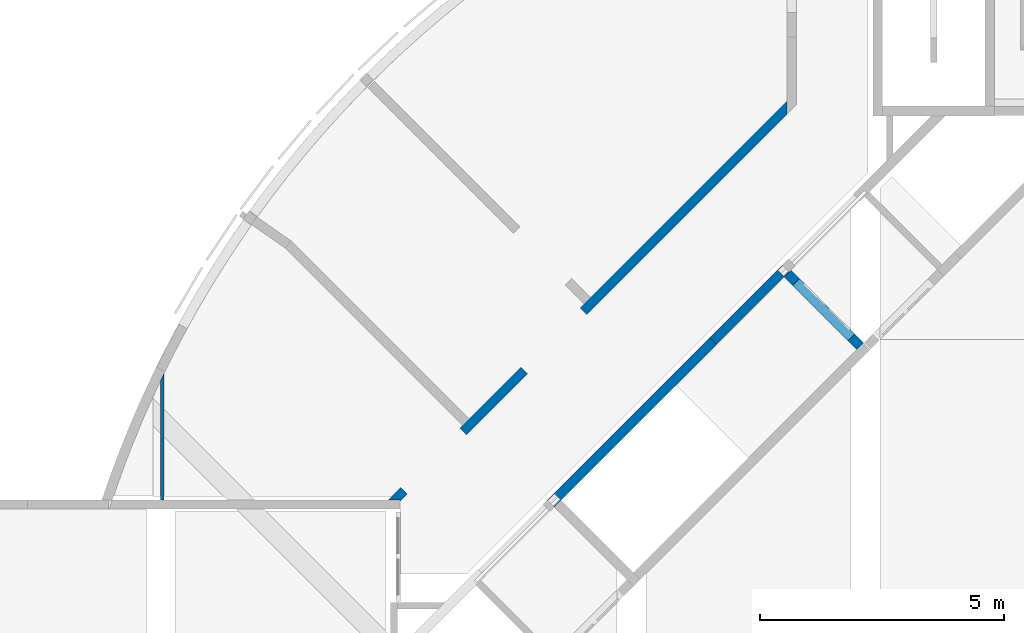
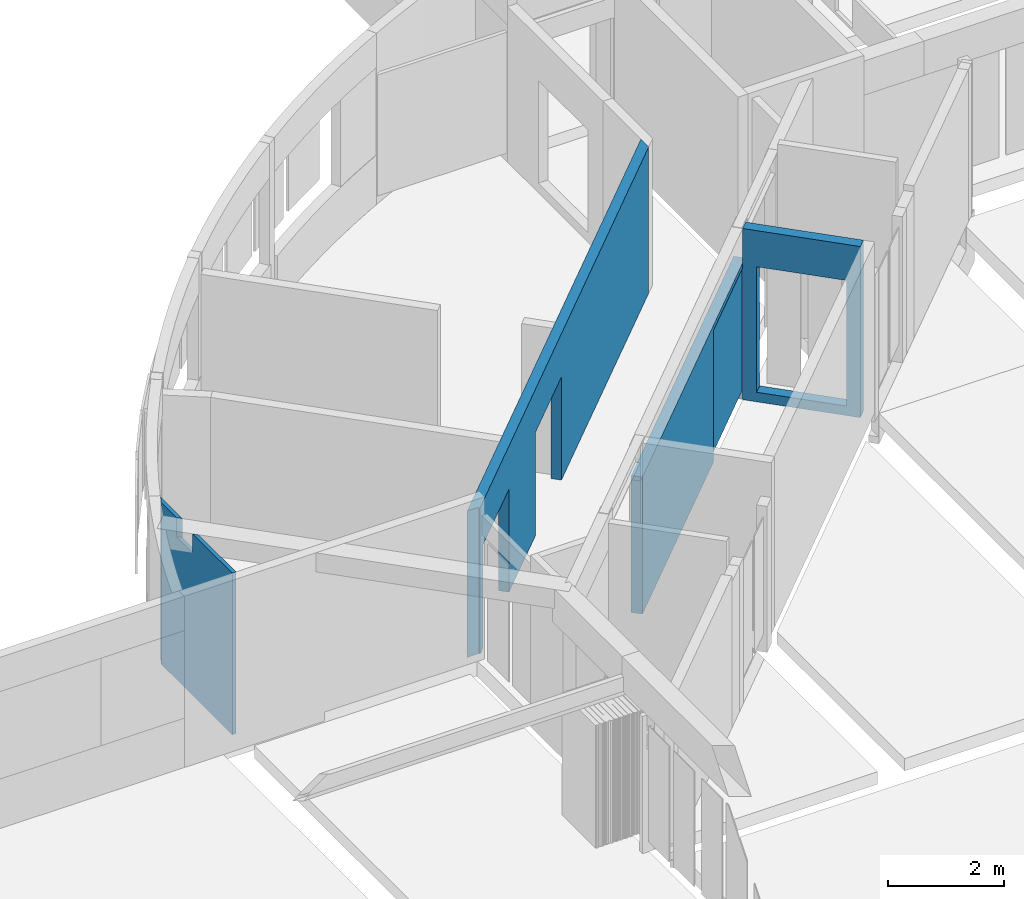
# One storey, part 29 of 30: 5 walls.
"""IFC4X3_ADD2 building model written with IfcOpenShell, lengths in millimetres."""

import ifcopenshell
import ifcopenshell.guid

model = None  # the IFC model being written
_history = None  # IfcOwnerHistory: only IFC2X3 demands one
_inside = {}  # id of a spatial element -> (the spatial element, [elements in it])
_under = {}  # id of a project, library or spatial element -> (it, [spatial elements below it])
_declared = {}  # id of a project -> (the project, [libraries it declares])
_typed = {}  # id of a type object -> (the type object, [elements of that type])
_made_of = {}  # id of a material, layer set ... -> (it, [elements and type objects made of it])


def new_model(schema):
    """Start an empty IFC model of exactly this schema.

    Asked for "IFC4X3", IfcOpenShell would pick the latest addendum, in which some entities
    have other attributes; the version numbers below select the first issue.
    IFC2X3 requires an IfcOwnerHistory on every rooted entity: one is made here for all.
    """
    global model, _history
    if schema == "IFC4X3":
        model = ifcopenshell.file(schema_version=(4, 3, 0, 0))
    else:
        model = ifcopenshell.file(schema=schema)
    _inside.clear()
    _under.clear()
    _declared.clear()
    _typed.clear()
    _made_of.clear()
    _history = None
    if model.schema == "IFC2X3":
        org = make("IfcOrganization", Name="unknown")
        user = make(
            "IfcPersonAndOrganization",
            ThePerson=make("IfcPerson", FamilyName="unknown"),
            TheOrganization=org,
        )
        app = make(
            "IfcApplication",
            ApplicationDeveloper=org,
            Version="unknown",
            ApplicationFullName="unknown",
            ApplicationIdentifier="unknown",
        )
        _history = make(
            "IfcOwnerHistory",
            OwningUser=user,
            OwningApplication=app,
            ChangeAction="ADDED",
            CreationDate=0,
        )
    return model


def make(cls, **values):
    """One entity of the class cls with the attributes given. An attribute that is None is left unset."""
    return model.create_entity(
        cls, **{name: value for name, value in values.items() if value is not None}
    )


def rooted(cls, **values):
    """An entity with a GlobalId (a new one), such as an element, a storey or a relation."""
    return make(cls, GlobalId=ifcopenshell.guid.new(), OwnerHistory=_history, **values)


def si_unit(unit_type, name, prefix=None):
    """IfcSIUnit, for example si_unit("LENGTHUNIT", "METRE", prefix="MILLI")."""
    return make("IfcSIUnit", UnitType=unit_type, Prefix=prefix, Name=name)


def assignment(units):
    """IfcUnitAssignment: the units of a project."""
    return None if units is None else make("IfcUnitAssignment", Units=units)


def point(xyz):
    """IfcCartesianPoint."""
    return None if xyz is None else make("IfcCartesianPoint", Coordinates=xyz)


def direction(xyz):
    """IfcDirection."""
    return None if xyz is None else make("IfcDirection", DirectionRatios=xyz)


def frame(location, z_axis=None, x_axis=None):
    """IfcAxis2Placement3D, a coordinate frame: its origin and axes. An axis left out is left unset."""
    return make(
        "IfcAxis2Placement3D",
        Location=point(location),
        Axis=direction(z_axis),
        RefDirection=direction(x_axis),
    )


def origin_with_axes():
    """The frame at (0, 0, 0) with the z axis (0, 0, 1) and the x axis (1, 0, 0) written out."""
    return frame((0.0, 0.0, 0.0), z_axis=(0.0, 0.0, 1.0), x_axis=(1.0, 0.0, 0.0))


def place(relative_to, where):
    """IfcLocalPlacement: puts the frame where relative to a parent placement (None: the world)."""
    return make(
        "IfcLocalPlacement", PlacementRelTo=relative_to, RelativePlacement=where
    )


def context(
    kind, dimensions, precision=None, world=None, true_north=None, identifier=None
):
    """IfcGeometricRepresentationContext, for example the 3D "Model" context."""
    return make(
        "IfcGeometricRepresentationContext",
        ContextIdentifier=identifier,
        ContextType=kind,
        CoordinateSpaceDimension=dimensions,
        Precision=precision,
        WorldCoordinateSystem=world,
        TrueNorth=true_north,
    )


def subcontext(parent, identifier, kind, view, scale=None):
    """IfcGeometricRepresentationSubContext, for example "Body" below "Model"."""
    return make(
        "IfcGeometricRepresentationSubContext",
        ContextIdentifier=identifier,
        ContextType=kind,
        ParentContext=parent,
        TargetScale=scale,
        TargetView=view,
    )


def project(units=None, contexts=None):
    """IfcProject with its units and contexts."""
    return rooted(
        "IfcProject",
        Name="project",
        RepresentationContexts=contexts,
        UnitsInContext=assignment(units),
    )


def spatial(cls, under=None, at=None, **own):
    """A site, building, storey or space (cls), placed at a placement, below another one or the project."""
    s = rooted(cls, ObjectPlacement=at, **own)
    if under is not None:
        _under.setdefault(under.id(), (under, []))[1].append(s)
    return s


def point_list(points):
    """IfcCartesianPointList2D or 3D."""
    cls = (
        "IfcCartesianPointList2D" if len(points[0]) == 2 else "IfcCartesianPointList3D"
    )
    return make(cls, CoordList=points)


def polygons(points, faces, closed=None, point_numbers=None):
    """IfcPolygonalFaceSet: a face is its outer loop, then its inner loops; points numbered from 1."""
    made = []
    for loops in faces:
        if len(loops) == 1:
            made.append(make("IfcIndexedPolygonalFace", CoordIndex=loops[0]))
        else:
            made.append(
                make(
                    "IfcIndexedPolygonalFaceWithVoids",
                    CoordIndex=loops[0],
                    InnerCoordIndices=loops[1:],
                )
            )
    return make(
        "IfcPolygonalFaceSet",
        Coordinates=point_list(points),
        Closed=closed,
        Faces=made,
        PnIndex=point_numbers,
    )


def shape(context_of_items, identifier, shape_type, items):
    """IfcShapeRepresentation: the items that make up one representation, for example the "Body"."""
    return make(
        "IfcShapeRepresentation",
        ContextOfItems=context_of_items,
        RepresentationIdentifier=identifier,
        RepresentationType=shape_type,
        Items=items,
    )


def source(mapping_origin, context_of_items, identifier, shape_type, items):
    """IfcRepresentationMap: a shape defined once, which mapped items show again and again."""
    return make(
        "IfcRepresentationMap",
        MappingOrigin=mapping_origin,
        MappedRepresentation=shape(context_of_items, identifier, shape_type, items),
    )


def transform(
    local_origin,
    x_axis=None,
    y_axis=None,
    z_axis=None,
    scale=None,
    scale2=None,
    scale3=None,
    uniform=True,
):
    """IfcCartesianTransformationOperator3D, or its non-uniform kind. x_axis, y_axis, z_axis: its Axis1, 2, 3."""
    if uniform:
        return make(
            "IfcCartesianTransformationOperator3D",
            Axis1=direction(x_axis),
            Axis2=direction(y_axis),
            LocalOrigin=point(local_origin),
            Scale=scale,
            Axis3=direction(z_axis),
        )
    return make(
        "IfcCartesianTransformationOperator3DnonUniform",
        Axis1=direction(x_axis),
        Axis2=direction(y_axis),
        LocalOrigin=point(local_origin),
        Scale=scale,
        Axis3=direction(z_axis),
        Scale2=scale2,
        Scale3=scale3,
    )


def mapped(mapping_source, mapping_target):
    """IfcMappedItem: shows the shape of a source again, moved by a transform."""
    return make(
        "IfcMappedItem", MappingSource=mapping_source, MappingTarget=mapping_target
    )


def made_of(thing, what):
    """Note that an element or type object is made of a material, layer set ...; save() writes the relation."""
    if what is not None:
        _made_of.setdefault(what.id(), (what, []))[1].append(thing)
    return thing


def type_object(cls, material=None, **own):
    """A type object (cls), such as IfcWallType, which elements share."""
    return made_of(rooted(cls, **own), material)


def type_shapes(of_type, sources):
    """Give a type object the sources (RepresentationMaps) that its elements show as mapped items."""
    of_type.RepresentationMaps = sources


def element(
    cls,
    number,
    at=None,
    inside=None,
    cuts=None,
    type_object=None,
    material=None,
    context=None,
    identifier="Body",
    shape_type=None,
    held_by="IfcProductDefinitionShape",
    body=None,
    shapes=None,
    **own,
):
    """One element of the class cls, such as IfcWall. Its Tag is "e" and its number.

    at: its placement. inside: the storey or other place that contains it. cuts: it is an
    opening in that element (IfcRelVoidsElement). A single representation is given by context,
    identifier, shape_type and body (its items); several are given by shapes. held_by: the class
    of the entity that holds the representations. save() writes the other relations.
    """
    e = rooted(cls, Tag="e%d" % number, ObjectPlacement=at, **own)
    if body is not None:
        shapes = [shape(context, identifier, shape_type, body)]
    if shapes is not None:
        e.Representation = make(held_by, Representations=shapes)
    if inside is not None:
        _inside.setdefault(inside.id(), (inside, []))[1].append(e)
    if cuts is not None:
        rooted(
            "IfcRelVoidsElement", RelatingBuildingElement=cuts, RelatedOpeningElement=e
        )
    if type_object is not None:
        _typed.setdefault(type_object.id(), (type_object, []))[1].append(e)
    return made_of(e, material)


def aggregate(whole, parts):
    """IfcRelAggregates: a whole, such as a stair, and the parts it consists of."""
    return rooted("IfcRelAggregates", RelatingObject=whole, RelatedObjects=parts)


def save(model, path):
    """Write the relations noted so far, then the file.

    IfcRelAggregates (storeys below a building ...), IfcRelContainedInSpatialStructure (elements
    in a storey), IfcRelDefinesByType, IfcRelAssociatesMaterial and IfcRelDeclares: one each for
    every whole, place, type object, material and project.
    """
    for whole, parts in _under.values():
        aggregate(whole, parts)
    for where, things in _inside.values():
        rooted(
            "IfcRelContainedInSpatialStructure",
            RelatedElements=things,
            RelatingStructure=where,
        )
    for kind, things in _typed.values():
        rooted("IfcRelDefinesByType", RelatedObjects=things, RelatingType=kind)
    for what, things in _made_of.values():
        rooted("IfcRelAssociatesMaterial", RelatedObjects=things, RelatingMaterial=what)
    for by, libraries in _declared.values():
        rooted("IfcRelDeclares", RelatingContext=by, RelatedDefinitions=libraries)
    model.write(path)


model = new_model("IFC4X3_ADD2")

# Units and contexts
model_context = context("Model", 3, precision=1e-05, world=origin_with_axes(), true_north=direction((0.0, 1.0)))
body_context = subcontext(model_context, "Body", "Model", "MODEL_VIEW")
ifc_project = project(units=[si_unit("LENGTHUNIT", "METRE", prefix="MILLI"), si_unit("AREAUNIT", "SQUARE_METRE"), si_unit("VOLUMEUNIT", "CUBIC_METRE"), si_unit("PLANEANGLEUNIT", "RADIAN"), si_unit("TIMEUNIT", "SECOND"), si_unit("MASSUNIT", "GRAM")], contexts=[model_context])

# Site, building, storey
site_placement = place(None, origin_with_axes())
site = spatial("IfcSite", under=ifc_project, at=site_placement, Name="Site", CompositionType="ELEMENT")
building_placement = place(site_placement, origin_with_axes())
building = spatial("IfcBuilding", under=site, at=building_placement, Name="IFC Building Story")
storey_placement = place(building_placement, origin_with_axes())
storey = spatial("IfcBuildingStorey", under=building, at=storey_placement, Name="000", Elevation=0.0)

# Walls
wall_type = type_object("IfcWallType", Name="Basic Wall_BB_10.01.62#01_Voorzetwand gipskarton_MS75 _ 50.25_ 75 mm9", PredefinedType="NOTDEFINED")
shared_shape = source(origin_with_axes(), body_context, "Body", "Tessellation", [
    polygons([(48.0119880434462, 37.5000000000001, 0.0), (2592.77120957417, 37.5000000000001, 0.0), (2592.77120957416, 25.000000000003, 0.0), (16.9922578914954, 25.000000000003, 0.0), (8.49524574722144, 29.1261377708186, 0.0), (0.0, 33.2559263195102, 0.0), (0.0, 37.5000000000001, 0.0), (2592.77120957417, 25.000000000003, 3400.0), (2592.77120957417, 37.5000000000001, 3400.0), (1292.78806068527, 25.000000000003, 3400.0), (1305.28806068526, 37.4999999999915, 3400.0), (739.60263573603, 37.5000000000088, 3000.0), (727.102635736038, 25.000000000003, 3000.0), (1292.78806068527, 25.000000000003, 3000.0), (1305.28806068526, 37.5000000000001, 3000.0), (16.9922578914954, 25.000000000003, 3400.0), (727.102635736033, 25.000000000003, 3400.0), (739.602635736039, 37.5000000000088, 3400.0), (0.0, 37.5000000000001, 3400.0), (1.29944055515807e-10, 33.2559263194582, 3400.0), (8.49524574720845, 29.1261377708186, 3400.0), (16.9922578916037, 24.999999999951, 637.5), (16.9922578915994, 24.9999999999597, 743.75), (8.69556215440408, 29.0288124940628, 664.001280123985), (8.22209635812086, 29.2588535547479, 2775.0064787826), (8.48147651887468, 29.1328277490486, 2894.43658762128), (1.51601398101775e-10, 33.2559263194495, 2807.90087463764), (8.64837174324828, 29.0517400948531, 1525.01943635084), (8.54279274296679, 29.1030364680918, 1404.91460805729), (16.9922578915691, 24.9999999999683, 1487.5), (16.9922578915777, 24.9999999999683, 1275.0), (16.9922578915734, 24.9999999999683, 1381.25), (8.81709455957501, 28.9697662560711, 1334.04730973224), (1.34275524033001e-10, 33.2559263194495, 3319.07758341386), (9.66424586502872, 28.5582053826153, 3339.30818575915), (8.19453016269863, 29.2722474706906, 193.485135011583), (16.9922578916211, 24.9999999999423, 146.711208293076), (16.9922578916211, 24.999999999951, 212.5), (16.9922578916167, 24.999999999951, 265.625), (16.9922578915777, 24.9999999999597, 1168.75), (7.92700282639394, 29.4022366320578, 1254.2974570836), (8.07939997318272, 29.3281876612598, 1163.17139363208), (8.14731954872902, 29.2951863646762, 1092.45262391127), (8.49524276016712, 29.1261392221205, 121.383624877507), (16.9922578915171, 24.9999999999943, 2914.46550048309), (8.16357194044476, 29.2872895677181, 2964.62757118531), (16.9922578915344, 24.9999999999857, 2423.67670877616), (16.9922578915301, 24.9999999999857, 2489.46550048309), (7.05443483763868, 29.8262407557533, 2442.7733271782), (16.9922578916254, 24.9999999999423, 80.9224165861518), (16.9922578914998, 24.9999999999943, 3238.1551668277), (16.9922578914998, 25.000000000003, 3319.07758341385), (8.49524276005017, 29.1261392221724, 3278.61637511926), (8.49524276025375, 29.1261392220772, 3202.56328001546), (16.9922578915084, 24.9999999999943, 3157.23275024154), (16.9922578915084, 24.9999999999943, 3076.31033365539), (8.48825734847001, 29.1295331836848, 3040.89334968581), (16.9922578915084, 24.9999999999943, 2995.38791706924), (16.9922578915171, 24.9999999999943, 2833.54308389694), (1.73258740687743e-10, 33.2559263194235, 2084.22416586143), (8.87224062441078, 28.9429739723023, 2051.32977000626), (8.09864864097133, 29.3188349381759, 2129.61048650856), (8.87224062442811, 28.9429739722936, 1788.17460317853), (8.09864864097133, 29.3188349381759, 1866.45531968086), (1.86253146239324e-10, 33.2559263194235, 1821.06899903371), (8.11824838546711, 29.3093116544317, 2653.93747975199), (1.60264335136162e-10, 33.2559263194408, 2610.53449951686), (8.89184074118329, 28.9334514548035, 2575.65676324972), (9.07570323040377, 28.8441249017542, 593.290160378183), (1.94916083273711e-10, 33.2559263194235, 1689.49141561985), (1.94916083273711e-10, 33.2559263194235, 1623.70262391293), (8.74497475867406, 29.0048053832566, 1669.47510578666), (1.90584614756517e-10, 33.2559263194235, 1755.28020732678), (9.07555531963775, 28.8441967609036, 3116.77154194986), (1.38606992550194e-10, 33.2559263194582, 3136.84483317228), (2.07910488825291e-10, 33.2559263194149, 1213.83624879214), (2.16573425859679e-10, 33.2559263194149, 1132.913832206), (2.25236362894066e-10, 33.2559263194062, 890.146582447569), (2.25236362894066e-10, 33.2559263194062, 809.224165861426), (8.10471425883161, 29.3158877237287, 839.796564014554), (1.55932866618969e-10, 33.2559263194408, 2676.32329122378), (1.77590209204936e-10, 33.2559263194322, 2150.01295756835), (1.8192167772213e-10, 33.2559263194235, 1952.64658244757), (1.86253146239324e-10, 33.2559263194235, 1886.85779074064), (1.73258740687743e-10, 33.2559263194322, 2281.59054098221), (1.73258740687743e-10, 33.2559263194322, 2215.80174927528), (8.11824838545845, 29.3093116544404, 2259.20472951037), (8.22209635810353, 29.2588535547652, 2380.27372854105), (1.68927272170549e-10, 33.2559263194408, 2413.16812439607), (8.27293730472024, 29.2341509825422, 1980.39629083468), (16.9922578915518, 24.999999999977, 1897.36637512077), (16.9922578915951, 24.9999999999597, 850.0), (8.01965594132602, 29.357216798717, 768.762957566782), (16.9922578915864, 24.9999999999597, 1062.5), (16.9922578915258, 24.9999999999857, 2621.04308389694), (16.9922578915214, 24.9999999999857, 2686.83187560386), (16.9922578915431, 24.9999999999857, 2226.31033365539), (16.9922578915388, 24.9999999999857, 2292.09912536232), (6.92455050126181, 29.8893590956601, 2714.53884455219), (1.51601398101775e-10, 33.2559263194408, 2742.11208293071), (6.92455050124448, 29.8893590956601, 2319.80609431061), (1.68927272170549e-10, 33.2559263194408, 2347.37933268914), (1.34275524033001e-10, 33.2559263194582, 3238.15516682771), (2.51225173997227e-10, 33.2559263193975, 80.9224165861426), (2.51225173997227e-10, 33.2559263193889, 161.844833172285), (1.42938461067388e-10, 33.2559263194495, 3071.05604146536), (1.42938461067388e-10, 33.2559263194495, 3005.26724975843), (1.47269929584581e-10, 33.2559263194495, 2939.4784580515), (1.47269929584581e-10, 33.2559263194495, 2873.68966634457), (2.07910488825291e-10, 33.2559263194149, 1294.75866537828), (1.8192167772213e-10, 33.2559263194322, 2018.4353741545), (1.55932866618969e-10, 33.2559263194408, 2544.74570780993), (9.00985233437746, 28.8761172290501, 914.920048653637), (16.9922578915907, 24.9999999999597, 956.25), (16.9922578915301, 24.9999999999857, 2555.25429219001), (8.28788752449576, 29.2268870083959, 2505.19378589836), (16.9922578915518, 24.999999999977, 1963.1551668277), (16.9922578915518, 24.999999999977, 2028.94395853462), (16.9922578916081, 24.999999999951, 531.25), (16.9922578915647, 24.9999999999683, 1593.75), (16.9922578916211, 24.9999999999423, 318.75), (9.4101481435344, 28.6816457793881, 371.875000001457), (8.36038004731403, 29.1916647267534, 292.187500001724), (8.12487304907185, 29.3060928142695, 517.007361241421), (7.93642520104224, 29.3976583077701, 445.450742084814), (7.32627348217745, 29.6941419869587, 60.691810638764), (7.75218911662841, 29.4871794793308, 1597.88094727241), (1.99247551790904e-10, 33.2559263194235, 1557.913832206), (2.4256223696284e-10, 33.2559263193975, 404.612082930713), (2.4256223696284e-10, 33.2559263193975, 323.689666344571), (2.46893705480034e-10, 33.2559263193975, 242.767249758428), (16.9922578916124, 24.999999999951, 425.0), (1.64595803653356e-10, 33.2559263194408, 2478.956916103), (2.38230768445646e-10, 33.2559263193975, 485.534499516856), (2.33899299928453e-10, 33.2559263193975, 566.456916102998), (2.33899299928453e-10, 33.2559263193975, 647.379332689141), (2.29567831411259e-10, 33.2559263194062, 728.301749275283), (2.20904894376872e-10, 33.2559263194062, 971.068999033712), (8.809810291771, 28.9733052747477, 986.232032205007), (2.16573425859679e-10, 33.2559263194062, 1051.99141561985), (2.07910488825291e-10, 33.2559263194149, 1360.54745708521), (1.99247551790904e-10, 33.2559263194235, 1492.12504049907), (2.03579020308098e-10, 33.2559263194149, 1426.33624879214), (16.9922578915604, 24.9999999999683, 1700.0), (16.9922578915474, 24.999999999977, 2094.73275024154), (16.9922578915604, 24.999999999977, 1831.57758341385), (16.9922578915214, 24.9999999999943, 2752.62066731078), (16.9922578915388, 24.9999999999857, 2357.88791706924), (16.9922578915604, 24.9999999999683, 1765.78879170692), (9.68972763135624, 28.5458265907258, 2194.39264190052), (16.9922578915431, 24.9999999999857, 2160.52154194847), (0.0, 37.5000000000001, 880.0)], [[[1, 2, 3]], [[1, 3, 4]], [[5, 6, 7]], [[7, 1, 4]], [[7, 4, 5]], [[8, 3, 2, 9]], [[10, 8, 9, 11]], [[12, 13, 14, 15]], [[21, 16, 17]], [[21, 17, 18]], [[21, 18, 19]], [[19, 20, 21]], [[10, 11, 15, 14]], [[13, 12, 18, 17]], [[22, 23, 24]], [[25, 26, 27]], [[28, 29, 30]], [[31, 32, 33]], [[20, 34, 35]], [[36, 37, 38, 39]], [[40, 41, 42, 43]], [[36, 44, 37]], [[45, 46, 26]], [[47, 48, 49]], [[44, 50, 37]], [[51, 52, 53]], [[51, 53, 54]], [[54, 55, 51]], [[56, 57, 58]], [[59, 45, 26]], [[60, 61, 62]], [[63, 64, 65]], [[66, 67, 68]], [[22, 24, 69]], [[70, 71, 72, 73]], [[74, 54, 75]], [[42, 76, 77, 43]], [[78, 79, 80]], [[81, 67, 66]], [[82, 60, 62]], [[64, 83, 84, 65]], [[85, 86, 87]], [[88, 49, 89]], [[90, 64, 91]], [[92, 80, 93]], [[40, 43, 94]], [[66, 95, 96]], [[87, 97, 98]], [[99, 25, 100]], [[101, 88, 102]], [[80, 79, 93]], [[63, 73, 72]], [[103, 75, 54]], [[54, 53, 34]], [[54, 34, 103]], [[104, 44, 105]], [[106, 107, 57]], [[26, 108, 109, 27]], [[110, 41, 33]], [[60, 111, 61]], [[68, 67, 112]], [[65, 73, 63]], [[74, 57, 56]], [[113, 92, 114]], [[48, 115, 116]], [[117, 118, 90, 91]], [[69, 119, 22]], [[55, 74, 56]], [[30, 120, 28]], [[121, 122, 123]], [[54, 74, 55]], [[124, 125, 119]], [[126, 50, 44]], [[36, 105, 44]], [[35, 16, 21]], [[4, 50, 126]], [[52, 35, 53]], [[53, 35, 34]], [[6, 5, 126]], [[126, 44, 104]], [[121, 123, 39]], [[28, 127, 128]], [[129, 122, 125]], [[130, 131, 123]], [[122, 121, 132]], [[131, 105, 36]], [[39, 123, 36]], [[36, 123, 131]], [[112, 133, 116]], [[90, 111, 83]], [[125, 122, 132]], [[123, 122, 130]], [[130, 122, 129]], [[119, 69, 124]], [[129, 125, 134]], [[76, 41, 110]], [[125, 132, 119]], [[41, 40, 31]], [[134, 125, 124]], [[69, 135, 124]], [[69, 136, 135]], [[106, 74, 75]], [[135, 134, 124]], [[93, 24, 23]], [[69, 24, 136]], [[24, 93, 137]], [[137, 93, 79]], [[42, 41, 76]], [[137, 136, 24]], [[92, 93, 23]], [[92, 113, 80]], [[113, 78, 80]], [[113, 138, 78]], [[138, 113, 139]], [[113, 114, 139]], [[114, 94, 139]], [[43, 139, 94]], [[43, 77, 140]], [[46, 107, 108]], [[140, 138, 139]], [[141, 110, 33]], [[139, 43, 140]], [[58, 57, 46]], [[74, 106, 57]], [[46, 57, 107]], [[45, 58, 46]], [[29, 141, 33]], [[31, 33, 41]], [[108, 26, 46]], [[33, 32, 29]], [[32, 30, 29]], [[142, 29, 28, 128]], [[143, 141, 29, 142]], [[127, 28, 120]], [[72, 120, 144]], [[72, 71, 127]], [[71, 128, 127]], [[25, 27, 100]], [[88, 89, 102]], [[64, 90, 83]], [[68, 95, 66]], [[61, 145, 62]], [[63, 146, 64]], [[25, 59, 26]], [[147, 25, 99]], [[88, 101, 148]], [[59, 25, 147]], [[47, 88, 148]], [[96, 147, 99]], [[98, 148, 101]], [[99, 81, 66]], [[101, 85, 87]], [[116, 115, 68]], [[81, 99, 100]], [[85, 101, 102]], [[96, 99, 66]], [[98, 101, 87]], [[115, 95, 68]], [[118, 145, 61]], [[63, 144, 149, 146]], [[150, 97, 87]], [[90, 118, 61]], [[151, 97, 150]], [[16, 35, 52]], [[150, 82, 62]], [[62, 145, 151]], [[64, 146, 91]], [[35, 21, 20]], [[6, 126, 104]], [[126, 5, 4]], [[120, 72, 127]], [[63, 72, 144]], [[112, 116, 68]], [[48, 116, 49]], [[49, 133, 89]], [[82, 150, 86]], [[47, 49, 88]], [[133, 49, 116]], [[86, 150, 87]], [[151, 150, 62]], [[111, 90, 61]], [[45, 59, 147]], [[147, 96, 95]], [[95, 115, 13]], [[45, 147, 95]], [[45, 95, 13]], [[13, 58, 45]], [[13, 56, 58]], [[13, 55, 56]], [[13, 17, 51]], [[13, 51, 55]], [[17, 52, 51]], [[17, 16, 52]], [[50, 4, 3]], [[3, 37, 50]], [[3, 38, 37]], [[3, 39, 38]], [[3, 121, 39]], [[3, 132, 121]], [[3, 119, 132]], [[3, 22, 119]], [[3, 23, 22]], [[3, 92, 23]], [[3, 114, 92]], [[3, 94, 114]], [[3, 40, 94]], [[3, 31, 40]], [[3, 32, 31]], [[3, 30, 32]], [[3, 120, 30]], [[3, 144, 120]], [[3, 8, 149]], [[3, 149, 144]], [[8, 146, 149]], [[8, 91, 146]], [[8, 117, 91]], [[8, 118, 117]], [[8, 145, 118]], [[8, 151, 145]], [[8, 97, 151]], [[8, 98, 97]], [[8, 148, 98]], [[8, 47, 148]], [[8, 48, 47]], [[14, 13, 115]], [[14, 115, 48]], [[48, 8, 14]], [[8, 10, 14]], [[152, 19, 1]], [[1, 7, 152]], [[15, 11, 9]], [[15, 9, 2]], [[15, 2, 1]], [[1, 12, 15]], [[1, 19, 12]], [[19, 18, 12]], [[79, 78, 152]], [[152, 137, 79]], [[152, 136, 137]], [[152, 135, 136]], [[152, 134, 135]], [[152, 129, 134]], [[152, 130, 129]], [[152, 131, 130]], [[152, 105, 131]], [[152, 104, 105]], [[152, 7, 104]], [[7, 6, 104]], [[34, 20, 19]], [[19, 103, 34]], [[19, 75, 103]], [[19, 106, 75]], [[19, 107, 106]], [[19, 108, 107]], [[19, 109, 108]], [[19, 27, 109]], [[19, 100, 27]], [[19, 81, 100]], [[19, 67, 81]], [[19, 112, 67]], [[19, 133, 112]], [[19, 89, 133]], [[19, 102, 89]], [[19, 85, 102]], [[19, 86, 85]], [[19, 82, 86]], [[19, 60, 82]], [[19, 111, 60]], [[19, 83, 111]], [[19, 84, 83]], [[19, 65, 84]], [[19, 73, 65]], [[19, 70, 73]], [[19, 71, 70]], [[19, 128, 71]], [[19, 142, 128]], [[19, 143, 142]], [[19, 141, 143]], [[19, 110, 141]], [[19, 76, 110]], [[19, 77, 76]], [[19, 140, 77]], [[19, 138, 140]], [[19, 152, 138]], [[152, 78, 138]]]),
    polygons([(16.9922578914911, 25.000000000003, 3400.0), (727.102635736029, 25.000000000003, 3400.0), (727.102635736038, 25.000000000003, 3000.0), (1292.78806068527, 25.000000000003, 3000.0), (1292.78806068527, 25.000000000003, 3400.0), (2592.77120957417, 25.000000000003, 3400.0), (2592.77120957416, 25.000000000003, 0.0), (16.9922578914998, 25.000000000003, 0.0), (16.9922578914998, 25.000000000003, 161.844833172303), (16.9922578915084, 24.9999999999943, 323.689666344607), (16.9922578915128, 24.9999999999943, 485.534499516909), (16.9922578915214, 24.9999999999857, 647.379332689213), (16.9922578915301, 24.9999999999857, 809.224165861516), (16.9922578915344, 24.9999999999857, 971.06899903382), (16.9922578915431, 24.9999999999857, 1132.91383220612), (16.9922578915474, 24.9999999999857, 1294.75866537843), (16.9922578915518, 24.999999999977, 1426.33624879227), (16.9922578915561, 24.9999999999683, 1557.91383220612), (16.9922578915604, 24.9999999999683, 1689.49141561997), (16.9922578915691, 24.9999999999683, 1821.06899903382), (16.9922578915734, 24.9999999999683, 1952.64658244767), (16.9922578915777, 24.9999999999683, 2084.22416586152), (16.9922578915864, 24.9999999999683, 2215.80174927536), (16.9922578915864, 24.9999999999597, 2347.37933268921), (16.9922578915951, 24.9999999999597, 2478.95691610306), (16.9922578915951, 24.999999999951, 2610.53449951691), (16.9922578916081, 24.999999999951, 2742.11208293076), (16.9922578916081, 24.999999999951, 2873.68966634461), (16.9922578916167, 24.999999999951, 3005.26724975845), (16.9922578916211, 24.999999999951, 3136.8448331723), (16.9922578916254, 24.9999999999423, 3238.1551668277), (2592.77120957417, 12.4999999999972, 0.0), (42.7905255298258, 12.4999999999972, 0.0), (29.8893603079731, 18.7457957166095, 0.0), (2592.77120957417, 12.4999999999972, 3400.0), (1280.28806068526, 12.4999999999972, 3400.0), (714.602635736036, 12.4999999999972, 3000.0), (1280.28806068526, 12.4999999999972, 3000.0), (42.7905255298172, 12.4999999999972, 3400.0), (714.602635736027, 12.4999999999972, 3400.0), (29.8893603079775, 18.7457957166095, 3400.0), (29.3331339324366, 19.0153129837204, 903.125000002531), (30.8059470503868, 18.3017093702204, 793.359502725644), (42.7905255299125, 12.4999999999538, 850.0), (29.4949218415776, 18.9369173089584, 2676.32329122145), (30.8930350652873, 18.2595179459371, 2854.38058224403), (42.7905255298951, 12.4999999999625, 1381.25), (30.419180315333, 18.489091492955, 1328.12500000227), (42.7905255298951, 12.4999999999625, 1275.0), (31.2555762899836, 18.0838831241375, 3293.74999814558), (29.8893556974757, 18.7457979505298, 3187.49999999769), (42.7905255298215, 12.4999999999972, 3238.15516682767), (31.1602178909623, 18.1300791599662, 146.711208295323), (42.7905255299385, 12.4999999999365, 80.9224165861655), (42.7905255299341, 12.4999999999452, 212.5), (42.7905255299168, 12.4999999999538, 743.75), (31.1896904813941, 18.1158012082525, 688.479111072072), (42.7905255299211, 12.4999999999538, 637.5), (42.7905255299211, 12.4999999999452, 531.25), (31.1970987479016, 18.1122122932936, 480.386435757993), (42.7905255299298, 12.4999999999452, 425.0), (29.8942566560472, 18.7434232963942, 1203.90128724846), (29.6424271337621, 18.8654438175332, 2258.95256025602), (30.2837933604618, 18.5546864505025, 2423.67670877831), (28.7832871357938, 19.2817580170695, 3077.10923055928), (42.7905255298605, 12.4999999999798, 2226.31033365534), (29.494921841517, 18.9369173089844, 2150.01295756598), (42.7905255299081, 12.4999999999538, 956.25), (31.6685780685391, 17.8838124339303, 999.232486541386), (28.5541624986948, 19.3927929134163, 1492.12504049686), (30.2012768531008, 18.5946662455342, 1646.87500000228), (30.1362857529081, 18.6261551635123, 1788.42677243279), (42.7905255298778, 12.4999999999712, 1831.57758341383), (30.2837933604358, 18.5546864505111, 1897.36637512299), (42.7905255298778, 12.4999999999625, 1700.0), (42.7905255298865, 12.4999999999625, 1593.75), (42.7905255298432, 12.4999999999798, 2752.62066731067), (42.7905255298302, 12.4999999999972, 3076.31033365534), (42.7905255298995, 12.4999999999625, 1168.75), (42.7905255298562, 12.4999999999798, 2357.88791706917), (30.2269948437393, 18.5822056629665, 2965.86328711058), (29.5267636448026, 18.9214882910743, 2013.54853152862), (30.2519509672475, 18.5701142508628, 2560.14113481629), (42.7905255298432, 12.4999999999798, 2621.04308389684), (42.7905255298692, 12.4999999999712, 1963.15516682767), (29.5336697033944, 18.918141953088, 584.37500000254), (29.4900749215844, 18.9392659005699, 262.303387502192), (42.7905255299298, 12.4999999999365, 318.75), (29.7744012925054, 18.8014970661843, 376.174800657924), (42.7905255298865, 12.4999999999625, 1487.5), (42.7905255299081, 12.4999999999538, 1062.5), (29.8145563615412, 18.7820405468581, 1095.99370433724), (42.7905255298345, 12.4999999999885, 2914.46550048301), (42.7905255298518, 12.4999999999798, 2489.46550048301), (42.7905255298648, 12.4999999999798, 2094.7327502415)], [[[4, 5, 6]], [[4, 6, 25]], [[25, 26, 3]], [[25, 3, 4]], [[6, 24, 25]], [[6, 23, 24]], [[6, 22, 23]], [[6, 21, 22]], [[6, 20, 21]], [[6, 7, 19]], [[6, 19, 20]], [[7, 18, 19]], [[7, 17, 18]], [[7, 16, 17]], [[7, 15, 16]], [[7, 14, 15]], [[7, 13, 14]], [[7, 12, 13]], [[7, 11, 12]], [[7, 10, 11]], [[7, 9, 10]], [[7, 8, 9]], [[31, 1, 2]], [[2, 3, 30]], [[2, 30, 31]], [[3, 29, 30]], [[3, 28, 29]], [[3, 27, 28]], [[3, 26, 27]], [[34, 8, 7]], [[7, 32, 33]], [[7, 33, 34]], [[35, 32, 7, 6]], [[36, 35, 6, 5]], [[3, 37, 38, 4]], [[41, 39, 40]], [[41, 40, 2]], [[2, 1, 41]], [[38, 36, 5, 4]], [[37, 3, 2, 40]], [[42, 43, 44]], [[27, 45, 46]], [[47, 48, 49]], [[48, 17, 16]], [[50, 51, 52]], [[53, 54, 55]], [[56, 57, 58]], [[59, 60, 61]], [[15, 62, 16]], [[8, 34, 53]], [[63, 64, 24]], [[65, 51, 30]], [[66, 63, 67]], [[68, 69, 42]], [[70, 71, 18]], [[72, 73, 74]], [[75, 71, 76]], [[30, 51, 31]], [[62, 48, 16]], [[72, 74, 20]], [[46, 45, 77]], [[70, 18, 17]], [[34, 33, 54]], [[78, 52, 51]], [[79, 49, 62]], [[80, 64, 63]], [[63, 23, 67]], [[46, 81, 28]], [[21, 74, 82]], [[83, 45, 26]], [[84, 45, 83]], [[82, 74, 85]], [[86, 59, 58]], [[51, 65, 78]], [[9, 53, 87]], [[87, 88, 89]], [[1, 31, 50]], [[39, 41, 50]], [[72, 19, 18, 71]], [[51, 50, 31]], [[54, 53, 34]], [[47, 90, 76, 70]], [[47, 70, 48]], [[91, 69, 68]], [[68, 42, 44]], [[48, 62, 49]], [[92, 62, 15, 14]], [[92, 79, 62]], [[30, 29, 65]], [[46, 93, 81]], [[81, 78, 65]], [[81, 65, 29]], [[28, 81, 29]], [[85, 74, 73]], [[94, 64, 80]], [[26, 45, 27]], [[22, 67, 23]], [[9, 87, 10]], [[78, 81, 93]], [[27, 46, 28]], [[77, 93, 46]], [[39, 50, 52]], [[50, 41, 1]], [[95, 66, 67]], [[67, 82, 85]], [[67, 85, 95]], [[77, 45, 84]], [[88, 87, 55]], [[25, 24, 64]], [[64, 83, 26]], [[64, 26, 25]], [[20, 74, 21]], [[22, 21, 82, 67]], [[12, 11, 86]], [[76, 71, 70]], [[75, 73, 72]], [[72, 20, 19]], [[72, 71, 75]], [[94, 84, 83, 64]], [[80, 63, 66]], [[24, 23, 63]], [[42, 69, 14]], [[14, 13, 42]], [[92, 69, 91]], [[86, 57, 12]], [[43, 42, 13]], [[57, 13, 12]], [[57, 56, 43]], [[48, 70, 17]], [[56, 44, 43]], [[87, 53, 55]], [[53, 9, 8]], [[86, 58, 57]], [[10, 87, 89]], [[11, 10, 89]], [[59, 86, 60]], [[60, 11, 89]], [[88, 61, 89]], [[57, 43, 13]], [[11, 60, 86]], [[61, 60, 89]], [[79, 92, 91]], [[14, 69, 92]], [[77, 84, 37]], [[37, 93, 77]], [[37, 78, 93]], [[37, 40, 52]], [[37, 52, 78]], [[40, 39, 52]], [[54, 33, 32]], [[32, 55, 54]], [[32, 88, 55]], [[32, 61, 88]], [[32, 59, 61]], [[32, 58, 59]], [[32, 56, 58]], [[32, 44, 56]], [[32, 68, 44]], [[32, 91, 68]], [[32, 79, 91]], [[32, 49, 79]], [[32, 47, 49]], [[32, 90, 47]], [[32, 76, 90]], [[32, 35, 75]], [[32, 75, 76]], [[35, 73, 75]], [[35, 85, 73]], [[35, 95, 85]], [[35, 66, 95]], [[35, 80, 66]], [[35, 94, 80]], [[38, 37, 84]], [[38, 84, 94]], [[38, 94, 35]], [[35, 36, 38]]]),
    polygons([(42.7905255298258, 12.4999999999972, 3400.0), (714.602635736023, 12.4999999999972, 3400.0), (714.602635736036, 12.4999999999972, 3000.0), (1280.28806068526, 12.4999999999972, 3000.0), (1280.28806068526, 12.4999999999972, 3400.0), (2592.77120957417, 12.4999999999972, 3400.0), (2592.77120957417, 12.4999999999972, 0.0), (42.7905255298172, 12.4999999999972, 0.0), (42.7905255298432, 12.4999999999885, 647.37933268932), (42.7905255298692, 12.4999999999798, 1294.75866537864), (42.7905255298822, 12.4999999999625, 1821.06899903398), (42.7905255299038, 12.4999999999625, 2347.37933268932), (42.7905255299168, 12.4999999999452, 2752.62066731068), (664.602635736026, -37.5000000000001, 3000.0), (664.602635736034, -37.5000000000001, 3400.0), (146.850807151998, -37.5000000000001, 3400.0), (146.850807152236, -37.5000000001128, 2752.62066731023), (146.850807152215, -37.5000000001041, 2226.31033365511), (146.850807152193, -37.5000000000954, 1700.0), (146.850807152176, -37.5000000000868, 1275.0), (146.850807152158, -37.5000000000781, 850.0), (146.850807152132, -37.5000000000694, 323.689666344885), (146.850807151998, -37.5000000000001, 0.0), (2592.77120957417, -37.5000000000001, 0.0), (2592.77120957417, -37.5000000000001, 3400.0), (1230.28806068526, -37.5000000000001, 3400.0), (1230.28806068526, -37.5000000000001, 3000.0), (94.7878312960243, -12.568241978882, 0.0), (94.78783129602, -12.568241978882, 3400.0), (98.7769255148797, -14.4844709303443, 621.028546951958), (94.7878681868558, -12.5682597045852, 2549.9999999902), (100.575534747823, -15.3481403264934, 2975.00001564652), (94.1102963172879, -12.2426784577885, 1062.50000001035), (93.0025581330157, -11.7103358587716, 1664.90691415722), (91.1302262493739, -10.8103814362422, 2090.92401676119)], [[[4, 5, 6]], [[4, 6, 12]], [[12, 13, 3]], [[12, 3, 4]], [[6, 11, 12]], [[6, 7, 10]], [[6, 10, 11]], [[7, 9, 10]], [[7, 8, 9]], [[13, 1, 2]], [[13, 2, 3]], [[14, 15, 16]], [[14, 16, 17]], [[22, 23, 24]], [[24, 21, 22]], [[24, 20, 21]], [[24, 25, 19]], [[24, 19, 20]], [[25, 18, 19]], [[27, 14, 17]], [[27, 17, 18]], [[27, 18, 25]], [[25, 26, 27]], [[28, 8, 7]], [[7, 24, 23]], [[7, 23, 28]], [[25, 24, 7, 6]], [[26, 25, 6, 5]], [[3, 14, 27, 4]], [[29, 16, 15]], [[29, 15, 2]], [[2, 1, 29]], [[26, 5, 4, 27]], [[14, 3, 2, 15]], [[8, 28, 30]], [[13, 31, 32]], [[30, 21, 33]], [[34, 19, 35]], [[16, 29, 32]], [[28, 23, 22]], [[18, 17, 31]], [[35, 31, 12]], [[18, 31, 35]], [[10, 9, 33]], [[1, 13, 32]], [[33, 34, 10]], [[35, 19, 18]], [[13, 12, 31]], [[22, 30, 28]], [[32, 31, 17]], [[12, 11, 35]], [[35, 11, 34]], [[16, 32, 17]], [[32, 29, 1]], [[11, 10, 34]], [[21, 20, 33]], [[33, 20, 34]], [[20, 19, 34]], [[30, 33, 9]], [[30, 9, 8]], [[22, 21, 30]]]),
])
type_shapes(wall_type, [shared_shape])
wall_1_placement = place(storey_placement, frame((-43472.5, 33317.4201500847, 0.0), z_axis=(0.0, 0.0, 1.0), x_axis=(0.0, -1.0, 0.0)))
element("IfcWall", 1, at=wall_1_placement, inside=storey, type_object=wall_type, Name="Basic Wall:BB_10.01.62#01_Voorzetwand gipskarton_MS75 / 50.25, 75 mm", ObjectType="Basic Wall:BB_10.01.62#01_Voorzetwand gipskarton_MS75 / 50.25, 75 mm", PredefinedType="PARTITIONING", context=body_context, shape_type="MappedRepresentation", body=[
    mapped(shared_shape, transform((0.0, 0.0, 0.0))),
])
wall_2_placement = place(storey_placement, origin_with_axes())
element("IfcWall", 2, at=wall_2_placement, inside=storey, Name="Basic Wall:BB_XX_Wand uit beton, 200 mm", ObjectType="Basic Wall:BB_XX_Wand uit beton, 200 mm", PredefinedType="SOLIDWALL", context=body_context, shape_type="Tessellation", body=[
    polygons([(-35435.40890911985, 30577.58532236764, -200.0), (-35293.98755288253, 30719.00667860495, -200.0), (-32103.52175616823, 33909.47247531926, -200.0), (-32103.52175616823, 33909.47247531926, -9.999999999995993), (-32103.52175616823, 33909.47247531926, 2570.0), (-30719.00667860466, 35293.98755288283, 2570.0), (-30710.52139723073, 35302.47283425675, 2570.0), (-30710.52139723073, 35302.47283425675, -9.999999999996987), (-30710.52139723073, 35302.47283425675, -200.0), (-30612.94066142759, 35400.0535700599, -200.0), (-30612.94066142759, 35400.0535700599, 2680.0), (-35435.40890911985, 30577.58532236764, 2680.0), (-32244.94311240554, 34050.89383155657, -200.0), (-35576.83026535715, 30719.00667860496, -200.0), (-35576.83026535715, 30719.00667860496, 2680.0), (-30754.3620176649, 35541.4749262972, 2680.0), (-30754.3620176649, 35541.4749262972, -200.0), (-30851.94275346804, 35443.89419049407, -200.0), (-30851.94275346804, 35443.89419049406, -9.999999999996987), (-30851.94275346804, 35443.89419049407, 2570.0), (-30860.42803484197, 35435.40890912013, 2570.0), (-32244.94311240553, 34050.89383155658, 2570.0), (-32244.94311240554, 34050.89383155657, -9.999999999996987)], [[[8, 9, 10]], [[10, 11, 7]], [[10, 7, 8]], [[11, 6, 7]], [[11, 5, 6]], [[5, 11, 12]], [[12, 2, 4]], [[12, 4, 5]], [[2, 3, 4]], [[12, 1, 2]], [[23, 13, 14]], [[14, 15, 22]], [[14, 22, 23]], [[15, 16, 22]], [[16, 21, 22]], [[16, 20, 21]], [[16, 17, 19]], [[16, 19, 20]], [[17, 18, 19]], [[2, 1, 14]], [[14, 13, 3]], [[14, 3, 2]], [[11, 10, 17, 16]], [[12, 11, 16, 15]], [[1, 12, 15, 14]], [[23, 22, 5]], [[23, 5, 4]], [[4, 3, 13]], [[4, 13, 23]], [[6, 5, 22]], [[6, 22, 21]], [[21, 20, 7]], [[21, 7, 6]], [[19, 18, 9]], [[19, 9, 8]], [[8, 7, 20]], [[8, 20, 19]], [[10, 9, 18, 17]]]),
])
wall_3_placement = place(storey_placement, origin_with_axes())
element("IfcWall", 3, at=wall_3_placement, inside=storey, Name="Basic Wall:BB_XX_Wand uit beton, 200 mm", ObjectType="Basic Wall:BB_XX_Wand uit beton, 200 mm", PredefinedType="SOLIDWALL", context=body_context, shape_type="Tessellation", body=[
    polygons([(-30719.00667860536, 35293.98755288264, 3400.0), (-30719.00667860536, 35293.98755288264, -200.0), (-29234.08243811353, 33809.0633123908, -200.0), (-29234.08243811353, 33809.0633123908, 3400.0), (-29411.09720995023, 33986.07808422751, 0.0), (-30542.46805984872, 35117.44893412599, -4.007461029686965e-12), (-30542.46805984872, 35117.44893412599, 2640.0), (-29411.09720995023, 33986.07808422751, 2640.0), (-30577.58532236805, 35435.40890911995, -200.0), (-30577.58532236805, 35435.40890911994, 3070.0), (-30577.58532236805, 35435.40890911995, 3400.0), (-29092.66108187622, 33950.48466862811, 3400.0), (-29092.66108187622, 33950.48466862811, -200.0), (-30566.97872064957, 35424.80230740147, -200.0), (-30401.0467036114, 35258.87029036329, -4.007461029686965e-12), (-29269.67585371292, 34127.49944046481, 0.0), (-29269.67585371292, 34127.49944046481, 2640.0), (-30401.0467036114, 35258.8702903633, 2640.0)], [[[8, 5, 3]], [[8, 3, 4]], [[4, 1, 7]], [[4, 7, 8]], [[1, 2, 6]], [[1, 6, 7]], [[2, 3, 5]], [[2, 5, 6]], [[10, 11, 12]], [[18, 15, 14]], [[18, 14, 9]], [[18, 9, 10]], [[10, 12, 17]], [[10, 17, 18]], [[12, 13, 16]], [[12, 16, 17]], [[13, 14, 15]], [[13, 15, 16]], [[4, 3, 13, 12]], [[14, 13, 3]], [[14, 3, 2]], [[2, 9, 14]], [[11, 1, 4, 12]], [[10, 9, 2]], [[10, 2, 1]], [[1, 11, 10]], [[6, 5, 16, 15]], [[7, 6, 15, 18]], [[8, 7, 18, 17]], [[5, 8, 17, 16]]]),
])
wall_4_placement = place(storey_placement, origin_with_axes())
element("IfcWall", 4, at=wall_4_placement, inside=storey, Name="Basic Wall:BB_03.09.24#06_Wand uit metselwerk_EI60_43dB, 190 mm", ObjectType="Basic Wall:BB_03.09.24#06_Wand uit metselwerk_EI60_43dB, 190 mm", PredefinedType="SOLIDWALL", context=body_context, shape_type="Tessellation", body=[
    polygons([(-30660.00000000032, 38902.67027304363, 3070.0), (-30660.00000000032, 38902.67027304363, -10.0), (-34684.73236616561, 34877.93790687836, -10.0), (-34819.08265459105, 34743.58761845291, -10.0), (-34901.54328930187, 34661.1269837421, -10.0), (-34901.54328930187, 34661.1269837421, 2160.0), (-36117.76695294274, 33444.90332010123, 2160.0), (-36117.76695294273, 33444.90332010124, -10.0), (-37179.9738219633, 32382.69645108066, -10.0), (-37314.32411038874, 32248.34616265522, -10.0), (-37367.35711897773, 32195.31315406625, -10.0), (-37367.35711897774, 32195.31315406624, 2160.0), (-38583.58078261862, 30979.08949042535, 2160.0), (-38583.58078261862, 30979.08949042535, -10.0), (-38838.0213325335, 30724.64894051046, -10.0), (-38838.0213325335, 30724.64894051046, 3070.0), (-37314.32411038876, 32248.34616265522, 3070.0), (-37179.97382196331, 32382.69645108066, 3070.0), (-34819.08265459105, 34743.58761845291, 3070.0), (-34684.73236616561, 34877.93790687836, 3070.0), (-30660.00000000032, 38633.96969619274, -10.0), (-30660.00000000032, 38633.96969619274, 3070.0), (-38600.00000000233, 30693.96969619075, 3070.0), (-38600.00000000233, 30693.96969619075, -10.0), (-38449.23049419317, 30844.73920199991, -10.0), (-38449.23049419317, 30844.73920199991, 2160.0), (-37233.00683055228, 32060.96286564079, 2160.0), (-37233.00683055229, 32060.9628656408, -10.0), (-35983.4166645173, 33310.55303167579, -10.0), (-35983.4166645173, 33310.55303167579, 2160.0), (-34767.19300087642, 34526.77669531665, 2160.0), (-34767.19300087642, 34526.77669531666, -10.0), (-38600.00000000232, 30724.64894051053, 3070.0), (-38600.00000000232, 30724.64894051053, -10.0)], [[[13, 14, 15]], [[13, 15, 16]], [[16, 17, 12]], [[16, 12, 13]], [[12, 17, 10]], [[10, 11, 12]], [[17, 18, 7]], [[17, 7, 9]], [[17, 9, 10]], [[7, 8, 9]], [[18, 19, 6]], [[18, 6, 7]], [[19, 4, 5]], [[19, 5, 6]], [[19, 20, 3]], [[19, 3, 4]], [[20, 1, 2]], [[20, 2, 3]], [[31, 32, 21]], [[31, 21, 22]], [[22, 30, 31]], [[22, 27, 30]], [[27, 28, 29]], [[27, 29, 30]], [[22, 23, 27]], [[23, 26, 27]], [[23, 24, 25]], [[23, 25, 26]], [[33, 23, 17]], [[17, 16, 33]], [[23, 18, 17]], [[23, 19, 18]], [[23, 20, 19]], [[23, 22, 20]], [[22, 1, 20]], [[1, 22, 21, 2]], [[3, 2, 21]], [[3, 21, 32]], [[32, 4, 3]], [[32, 5, 4]], [[16, 15, 34, 33]], [[24, 23, 33, 34]], [[30, 7, 6, 31]], [[31, 6, 5, 32]], [[7, 30, 29, 8]], [[26, 13, 12, 27]], [[27, 12, 11, 28]], [[13, 26, 25, 14]], [[9, 8, 29]], [[9, 29, 28]], [[28, 10, 9]], [[28, 11, 10]], [[34, 15, 14]], [[34, 14, 25]], [[25, 24, 34]]]),
])
wall_5_placement = place(storey_placement, origin_with_axes())
element("IfcWall", 5, at=wall_5_placement, inside=storey, Name="Basic Wall:BB_03.09.24#05_Wand uit metselwerk_EI60, 190 mm", ObjectType="Basic Wall:BB_03.09.24#05_Wand uit metselwerk_EI60, 190 mm", PredefinedType="SOLIDWALL", context=body_context, shape_type="Tessellation", body=[
    polygons([(-30726.07774641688, 35301.05862069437, 2570.0), (-32110.59282398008, 33916.54354313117, 2570.0), (-32110.59282398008, 33916.54354313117, -200.0), (-32102.10754260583, 33925.02882450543, -200.0), (-32102.10754260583, 33925.02882450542, -10.0), (-30726.07774641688, 35301.05862069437, -10.0), (-32244.94311240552, 34050.89383155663, 2570.0), (-30860.42803484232, 35435.40890911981, 2570.0), (-30860.42803484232, 35435.40890911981, -10.0), (-32236.45783103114, 34059.37911293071, -10.0), (-32236.45783103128, 34059.37911293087, -200.0), (-32244.94311240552, 34050.89383155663, -200.0)], [[[5, 6, 1]], [[5, 1, 2]], [[2, 3, 5]], [[3, 4, 5]], [[10, 11, 12]], [[10, 12, 7]], [[7, 8, 9]], [[7, 9, 10]], [[3, 12, 11, 4]], [[8, 1, 6, 9]], [[2, 1, 8, 7]], [[3, 2, 7, 12]], [[5, 10, 9, 6]], [[10, 5, 4, 11]]]),
])

save(model, "model.ifc")
